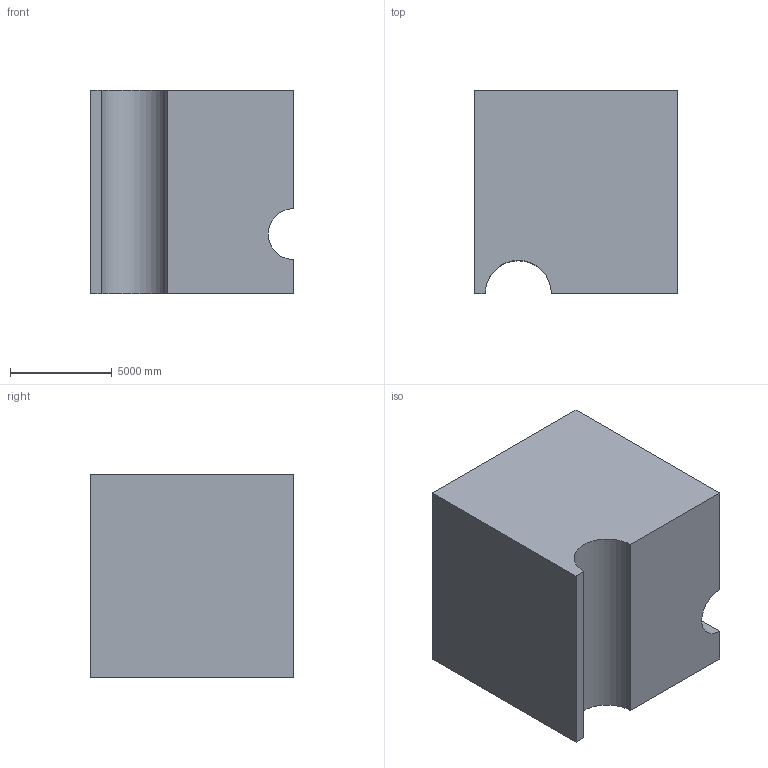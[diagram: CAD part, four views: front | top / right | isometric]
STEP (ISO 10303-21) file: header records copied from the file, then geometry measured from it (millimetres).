
FILE_DESCRIPTION (( 'STEP AP203' ), '1' );
FILE_NAME ('1159.STEP', '2022-08-18T12:59:37', ( 'user' ), ( '' ), 'SwSTEP 2.0', 'SolidWorks 2021', '' );
FILE_SCHEMA (( 'CONFIG_CONTROL_DESIGN' ));
Length unit declared in the file: centimetre
Products named in the file (1): 1159
Bounding box: 10000 x 10000 x 10000 mm (x, y, z)
Volume: 933986605145 mm3; surface area: 619618022 mm2
Topology: 1 solids, 1 shells, 10 faces, 24 edges, 16 vertices
Faces by surface type: plane 8, cylinder 2
Entity records: 369 total; most frequent: CARTESIAN_POINT 51, DIRECTION 50, ORIENTED_EDGE 48, EDGE_CURVE 24, LINE 20, VECTOR 20, VERTEX_POINT 16, AXIS2_PLACEMENT_3D 15
